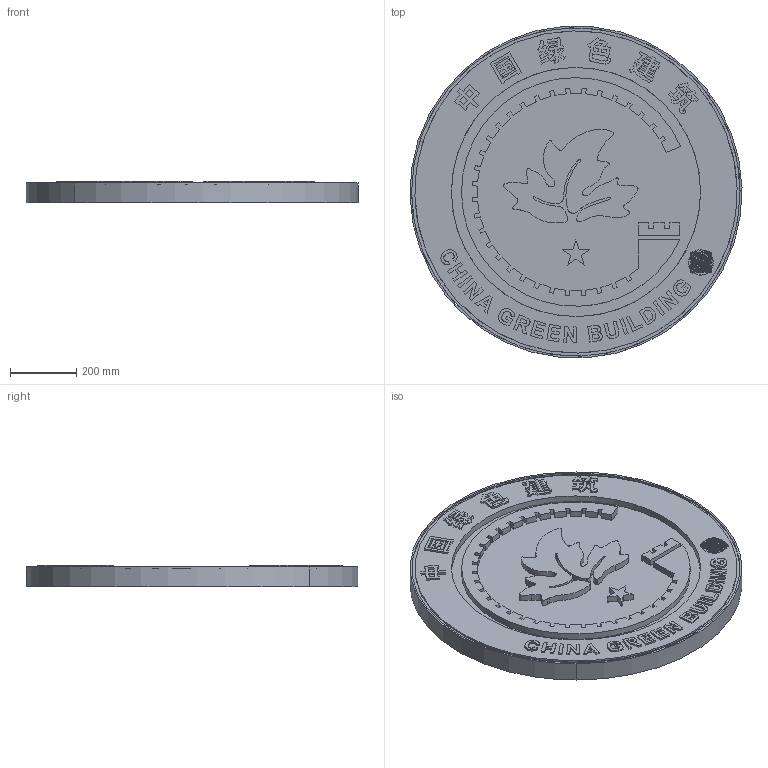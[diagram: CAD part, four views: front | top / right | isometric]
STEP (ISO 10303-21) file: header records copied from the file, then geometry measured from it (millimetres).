
FILE_DESCRIPTION(/* description */ (''),/* implementation_level */ '2;1');
FILE_NAME(/* name */ '一星（~3',/* time_stamp */ '2021-05-12T10:47:45+08:00',/* author */ (''),/* organization */ (''),/* preprocessor_version */ 'ST-DEVELOPER v15',/* originating_system */ '',/* authorisation */ '');
FILE_SCHEMA (('AUTOMOTIVE_DESIGN'));
Length unit declared in the file: millimetre
Products named in the file (1): Document
Bounding box: 999.59 x 997.77 x 65.5 mm (x, y, z)
Volume: 41022503.3 mm3; surface area: 3259243.9 mm2
Topology: 291 solids, 291 shells, 2254 faces, 5016 edges, 3344 vertices
Faces by surface type: bspline 1463, plane 791
Entity records: 80138 total; most frequent: CARTESIAN_POINT 45153, ORIENTED_EDGE 10032, EDGE_CURVE 5016, B_SPLINE_CURVE_WITH_KNOTS 5016, VERTEX_POINT 3344, EDGE_LOOP 2296, ADVANCED_FACE 2254, FACE_OUTER_BOUND 2254
